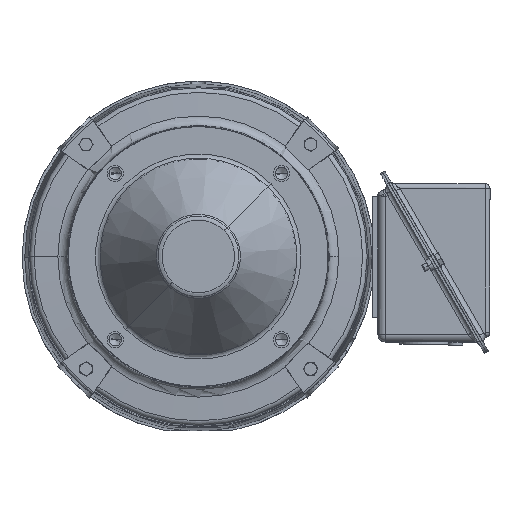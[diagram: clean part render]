
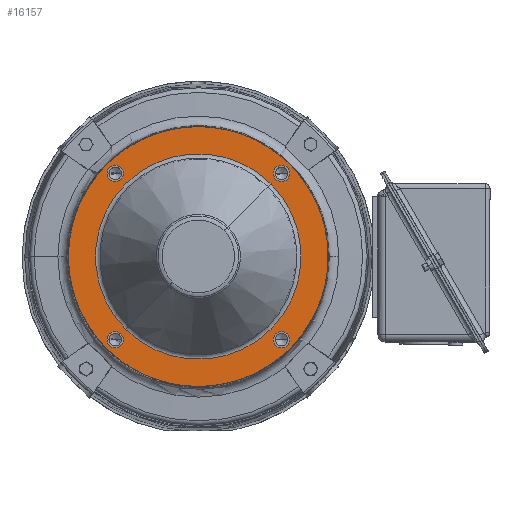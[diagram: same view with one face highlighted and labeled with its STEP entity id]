
A CAD part, top view. The second image highlights one B-rep face of the part: STEP entity #16157.
In plain terms, the highlighted planar face has unit normal (0, 0, 1).
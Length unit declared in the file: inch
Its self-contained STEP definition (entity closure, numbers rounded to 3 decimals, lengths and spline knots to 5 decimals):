
#403 = FACE_BOUND ( 'NONE', #34544, .T. ) ;
#1489 = CARTESIAN_POINT ( 'NONE',  ( 2.22076, -1.9335, -1.711 ) ) ;
#1697 = AXIS2_PLACEMENT_3D ( 'NONE', #11449, #16261, #12060 ) ;
#2489 = CARTESIAN_POINT ( 'NONE',  ( 2.07713, -2.07713, -1.711 ) ) ;
#3434 = AXIS2_PLACEMENT_3D ( 'NONE', #2489, #6676, #33545 ) ;
#3655 = DIRECTION ( 'NONE',  ( 0., 0., 1. ) ) ;
#3923 = CARTESIAN_POINT ( 'NONE',  ( -2.22076, 1.9335, -1.711 ) ) ;
#3935 = FACE_BOUND ( 'NONE', #26213, .T. ) ;
#4674 = CIRCLE ( 'NONE', #7818, 0.20312 ) ;
#5820 = EDGE_CURVE ( 'NONE', #36030, #17356, #47164, .T. ) ;
#5905 = AXIS2_PLACEMENT_3D ( 'NONE', #7761, #43383, #34850 ) ;
#6676 = DIRECTION ( 'NONE',  ( 0., 0., 1. ) ) ;
#6779 = EDGE_CURVE ( 'NONE', #48509, #33565, #17941, .T. ) ;
#6847 = EDGE_CURVE ( 'NONE', #55147, #29775, #55662, .T. ) ;
#7672 = CARTESIAN_POINT ( 'NONE',  ( -2.07713, -2.07713, -1.711 ) ) ;
#7761 = CARTESIAN_POINT ( 'NONE',  ( 0., 0., -1.711 ) ) ;
#7771 = AXIS2_PLACEMENT_3D ( 'NONE', #57798, #44070, #11587 ) ;
#7818 = AXIS2_PLACEMENT_3D ( 'NONE', #24335, #9792, #55818 ) ;
#8082 = ORIENTED_EDGE ( 'NONE', *, *, #38783, .F. ) ;
#9792 = DIRECTION ( 'NONE',  ( 0., 0., 1. ) ) ;
#9845 = VERTEX_POINT ( 'NONE', #48678 ) ;
#10355 = AXIS2_PLACEMENT_3D ( 'NONE', #16387, #25762, #21186 ) ;
#10464 = AXIS2_PLACEMENT_3D ( 'NONE', #28299, #18970, #19153 ) ;
#11449 = CARTESIAN_POINT ( 'NONE',  ( 2.07713, 2.07713, -1.711 ) ) ;
#11587 = DIRECTION ( 'NONE',  ( -0.707, -0.707, 0. ) ) ;
#12060 = DIRECTION ( 'NONE',  ( -0.707, -0.707, 0. ) ) ;
#12363 = EDGE_CURVE ( 'NONE', #27169, #19490, #15065, .T. ) ;
#12819 = PLANE ( 'NONE',  #56320 ) ;
#13008 = DIRECTION ( 'NONE',  ( -0.707, -0.707, 0. ) ) ;
#13563 = AXIS2_PLACEMENT_3D ( 'NONE', #25725, #20956, #57571 ) ;
#14276 = ORIENTED_EDGE ( 'NONE', *, *, #44693, .F. ) ;
#14294 = EDGE_CURVE ( 'NONE', #19490, #27169, #29190, .T. ) ;
#15051 = DIRECTION ( 'NONE',  ( 0., 0., 1. ) ) ;
#15065 = CIRCLE ( 'NONE', #7771, 3.25 ) ;
#15818 = AXIS2_PLACEMENT_3D ( 'NONE', #29586, #20841, #34571 ) ;
#16066 = EDGE_CURVE ( 'NONE', #20801, #44997, #22507, .T. ) ;
#16157 = ADVANCED_FACE ( 'NONE', ( #3935, #403, #46658, #35988, #32433, #20343 ), #12819, .T. ) ;
#16261 = DIRECTION ( 'NONE',  ( 0., 0., 1. ) ) ;
#16387 = CARTESIAN_POINT ( 'NONE',  ( -2.07713, 2.07713, -1.711 ) ) ;
#16613 = EDGE_CURVE ( 'NONE', #17356, #36030, #28126, .T. ) ;
#16951 = ORIENTED_EDGE ( 'NONE', *, *, #38593, .F. ) ;
#17356 = VERTEX_POINT ( 'NONE', #35648 ) ;
#17941 = CIRCLE ( 'NONE', #10464, 0.20312 ) ;
#18970 = DIRECTION ( 'NONE',  ( 0., 0., 1. ) ) ;
#19153 = DIRECTION ( 'NONE',  ( -0.707, -0.707, 0. ) ) ;
#19490 = VERTEX_POINT ( 'NONE', #27093 ) ;
#19504 = EDGE_LOOP ( 'NONE', ( #27524, #44749 ) ) ;
#19746 = ORIENTED_EDGE ( 'NONE', *, *, #5820, .F. ) ;
#19819 = CIRCLE ( 'NONE', #10355, 0.20312 ) ;
#20343 = FACE_BOUND ( 'NONE', #46110, .T. ) ;
#20713 = CARTESIAN_POINT ( 'NONE',  ( -1.9335, -1.9335, -1.711 ) ) ;
#20801 = VERTEX_POINT ( 'NONE', #51305 ) ;
#20841 = DIRECTION ( 'NONE',  ( 0., 0., 1. ) ) ;
#20956 = DIRECTION ( 'NONE',  ( 0., 0., 1. ) ) ;
#21186 = DIRECTION ( 'NONE',  ( -0.707, -0.707, 0. ) ) ;
#21746 = VERTEX_POINT ( 'NONE', #1489 ) ;
#22172 = CARTESIAN_POINT ( 'NONE',  ( 2.22076, 2.22076, -1.711 ) ) ;
#22507 = CIRCLE ( 'NONE', #42508, 0.20313 ) ;
#22559 = CARTESIAN_POINT ( 'NONE',  ( -2.2981, -2.2981, -1.711 ) ) ;
#22732 = AXIS2_PLACEMENT_3D ( 'NONE', #46151, #15051, #32972 ) ;
#24335 = CARTESIAN_POINT ( 'NONE',  ( 2.07713, -2.07713, -1.711 ) ) ;
#25162 = ORIENTED_EDGE ( 'NONE', *, *, #6847, .F. ) ;
#25725 = CARTESIAN_POINT ( 'NONE',  ( -2.07713, -2.07713, -1.711 ) ) ;
#25762 = DIRECTION ( 'NONE',  ( 0., 0., 1. ) ) ;
#26106 = EDGE_LOOP ( 'NONE', ( #25162, #32756 ) ) ;
#26213 = EDGE_LOOP ( 'NONE', ( #47549, #16951 ) ) ;
#26367 = DIRECTION ( 'NONE',  ( -0.707, -0.707, 0. ) ) ;
#26913 = ORIENTED_EDGE ( 'NONE', *, *, #16613, .F. ) ;
#27093 = CARTESIAN_POINT ( 'NONE',  ( 2.2981, 2.2981, -1.711 ) ) ;
#27169 = VERTEX_POINT ( 'NONE', #40139 ) ;
#27502 = EDGE_CURVE ( 'NONE', #33565, #48509, #19819, .T. ) ;
#27524 = ORIENTED_EDGE ( 'NONE', *, *, #12363, .T. ) ;
#28126 = CIRCLE ( 'NONE', #22732, 2.5671 ) ;
#28130 = CARTESIAN_POINT ( 'NONE',  ( -1.81521, -1.81521, -1.711 ) ) ;
#28169 = DIRECTION ( 'NONE',  ( 0., 0., 1. ) ) ;
#28299 = CARTESIAN_POINT ( 'NONE',  ( -2.07713, 2.07713, -1.711 ) ) ;
#28469 = CIRCLE ( 'NONE', #41929, 0.20313 ) ;
#29190 = CIRCLE ( 'NONE', #5905, 3.25 ) ;
#29586 = CARTESIAN_POINT ( 'NONE',  ( 0., 0., -1.711 ) ) ;
#29775 = VERTEX_POINT ( 'NONE', #20713 ) ;
#30539 = EDGE_LOOP ( 'NONE', ( #14276, #8082 ) ) ;
#32433 = FACE_OUTER_BOUND ( 'NONE', #19504, .T. ) ;
#32568 = DIRECTION ( 'NONE',  ( -0.707, -0.707, 0. ) ) ;
#32756 = ORIENTED_EDGE ( 'NONE', *, *, #46128, .F. ) ;
#32972 = DIRECTION ( 'NONE',  ( -0.707, -0.707, 0. ) ) ;
#33545 = DIRECTION ( 'NONE',  ( -0.707, -0.707, 0. ) ) ;
#33565 = VERTEX_POINT ( 'NONE', #3923 ) ;
#34544 = EDGE_LOOP ( 'NONE', ( #40302, #48986 ) ) ;
#34571 = DIRECTION ( 'NONE',  ( -0.707, -0.707, 0. ) ) ;
#34850 = DIRECTION ( 'NONE',  ( -0.707, -0.707, 0. ) ) ;
#35648 = CARTESIAN_POINT ( 'NONE',  ( 1.81521, 1.81521, -1.711 ) ) ;
#35988 = FACE_BOUND ( 'NONE', #26106, .T. ) ;
#36030 = VERTEX_POINT ( 'NONE', #28130 ) ;
#38593 = EDGE_CURVE ( 'NONE', #44997, #20801, #46716, .T. ) ;
#38783 = EDGE_CURVE ( 'NONE', #21746, #9845, #4674, .T. ) ;
#39898 = DIRECTION ( 'NONE',  ( 0., 0., 1. ) ) ;
#40139 = CARTESIAN_POINT ( 'NONE',  ( -2.2981, -2.2981, -1.711 ) ) ;
#40302 = ORIENTED_EDGE ( 'NONE', *, *, #27502, .F. ) ;
#41929 = AXIS2_PLACEMENT_3D ( 'NONE', #7672, #3655, #26367 ) ;
#42508 = AXIS2_PLACEMENT_3D ( 'NONE', #55462, #28169, #32568 ) ;
#43383 = DIRECTION ( 'NONE',  ( 0., 0., 1. ) ) ;
#44070 = DIRECTION ( 'NONE',  ( 0., 0., 1. ) ) ;
#44666 = CARTESIAN_POINT ( 'NONE',  ( -1.9335, 2.22076, -1.711 ) ) ;
#44693 = EDGE_CURVE ( 'NONE', #9845, #21746, #58477, .T. ) ;
#44749 = ORIENTED_EDGE ( 'NONE', *, *, #14294, .T. ) ;
#44997 = VERTEX_POINT ( 'NONE', #22172 ) ;
#46110 = EDGE_LOOP ( 'NONE', ( #19746, #26913 ) ) ;
#46128 = EDGE_CURVE ( 'NONE', #29775, #55147, #28469, .T. ) ;
#46151 = CARTESIAN_POINT ( 'NONE',  ( 0., 0., -1.711 ) ) ;
#46658 = FACE_BOUND ( 'NONE', #30539, .T. ) ;
#46716 = CIRCLE ( 'NONE', #1697, 0.20313 ) ;
#47164 = CIRCLE ( 'NONE', #15818, 2.5671 ) ;
#47549 = ORIENTED_EDGE ( 'NONE', *, *, #16066, .F. ) ;
#48509 = VERTEX_POINT ( 'NONE', #44666 ) ;
#48678 = CARTESIAN_POINT ( 'NONE',  ( 1.9335, -2.22076, -1.711 ) ) ;
#48986 = ORIENTED_EDGE ( 'NONE', *, *, #6779, .F. ) ;
#51305 = CARTESIAN_POINT ( 'NONE',  ( 1.9335, 1.9335, -1.711 ) ) ;
#55147 = VERTEX_POINT ( 'NONE', #56582 ) ;
#55462 = CARTESIAN_POINT ( 'NONE',  ( 2.07713, 2.07713, -1.711 ) ) ;
#55662 = CIRCLE ( 'NONE', #13563, 0.20313 ) ;
#55818 = DIRECTION ( 'NONE',  ( -0.707, -0.707, 0. ) ) ;
#56320 = AXIS2_PLACEMENT_3D ( 'NONE', #22559, #39898, #13008 ) ;
#56582 = CARTESIAN_POINT ( 'NONE',  ( -2.22076, -2.22076, -1.711 ) ) ;
#57571 = DIRECTION ( 'NONE',  ( -0.707, -0.707, 0. ) ) ;
#57798 = CARTESIAN_POINT ( 'NONE',  ( 0., 0., -1.711 ) ) ;
#58477 = CIRCLE ( 'NONE', #3434, 0.20312 ) ;
